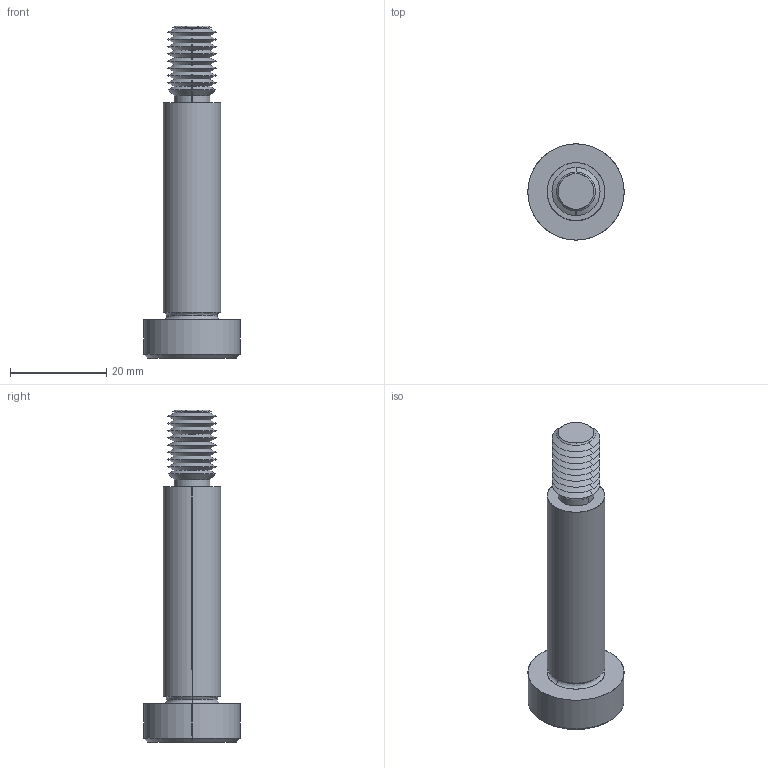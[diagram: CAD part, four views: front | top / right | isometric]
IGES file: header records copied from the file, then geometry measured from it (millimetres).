
Start section: SolidWorks IGES file using analytic representation for surfaces
Global section: file name: C:\Users\IanO\Documents\Temp Folder\GENERAL\SCREW REVISION\P0130_v2\P0130.T5_v2_20220106_IGES\P0130.120-045-T5.igs; native system: SolidWorks 2019; preprocessor: SolidWorks 2019; author: IanO; date: 220106.224845; units: millimetre
Bounding box: 20 x 20 x 69 mm (x, y, z)
Surface area: 3750.8 mm2 (no closed solid volume)
Topology: 0 solids, 0 shells, 76 faces, 564 edges, 562 vertices
Faces by surface type: revolution 56, bspline 20
